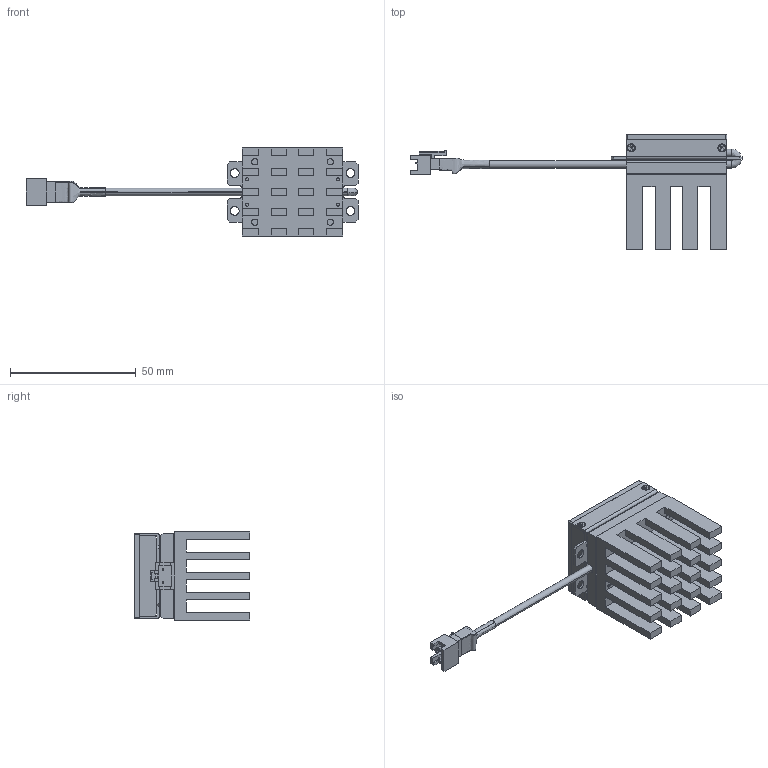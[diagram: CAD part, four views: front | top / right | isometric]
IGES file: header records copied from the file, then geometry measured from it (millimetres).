
Start section: SolidWorks IGES file using analytic representation for surfaces
Global section: file name: C:\Users\user\Downloads\TEMP_STEP\TMCB3001D101A_VLCX-3030.IGS; native system: SolidWorks 2018; preprocessor: SolidWorks 2018; author: user; date: 231107.110413; units: millimetre
Bounding box: 131.93 x 46 x 35 mm (x, y, z)
Surface area: 24247.2 mm2 (no closed solid volume)
Topology: 0 solids, 0 shells, 413 faces, 4749 edges, 4749 vertices
Faces by surface type: bspline 329, revolution 84
